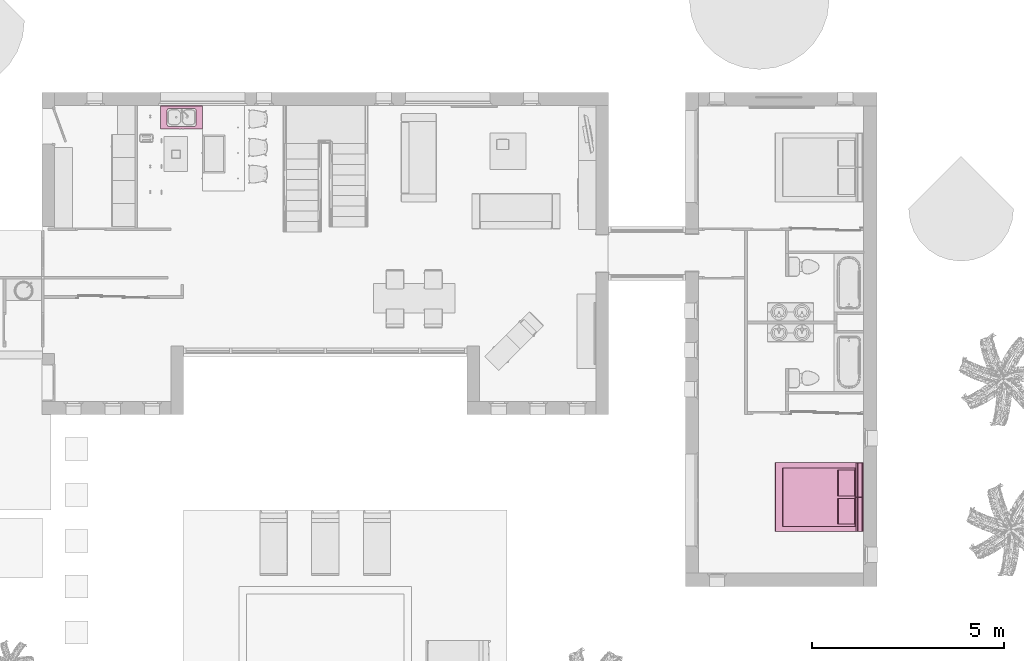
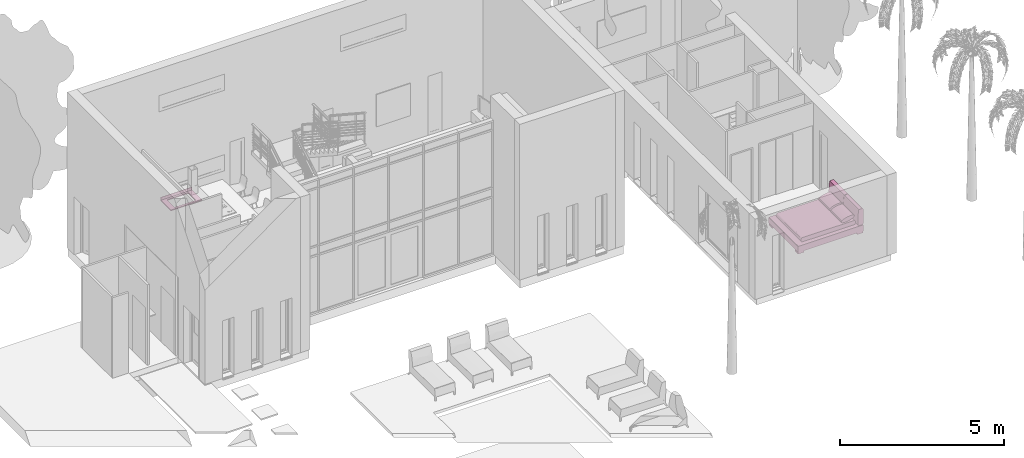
# One storey, part 26 of 40: 2 furnishings, 1 opening.
"""IFC2X3 building model written with IfcOpenShell, lengths in metres."""

from ifc_helpers import new_model, entity, si_unit, converted_unit, derived_unit, direction, frame, frame_2d, origin, place, context, subcontext, project, spatial, polyline, circle_curve, parameter, trimmed, segment, composite_curve, outline, extrude, source, transform, mapped, material, material_list, type_object, type_shapes, element, save


model = new_model("IFC2X3")

# Units and contexts
model_context = context("Model", 3, precision=1e-05, world=origin(), true_north=direction((6.12303176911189e-17, 1.0)))
body_context = subcontext(model_context, "Body", "Model", "MODEL_VIEW")
ifc_project = project(units=[si_unit("LENGTHUNIT", "METRE"), si_unit("AREAUNIT", "SQUARE_METRE"), si_unit("VOLUMEUNIT", "CUBIC_METRE"), converted_unit("PLANEANGLEUNIT", "DEGREE", entity("IfcRatioMeasure", 0.0174532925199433), si_unit("PLANEANGLEUNIT", "RADIAN"), dimensions=[0, 0, 0, 0, 0, 0, 0]), si_unit("MASSUNIT", "GRAM", prefix="KILO"), derived_unit("MASSDENSITYUNIT", [(si_unit("MASSUNIT", "GRAM", prefix="KILO"), 1), (si_unit("LENGTHUNIT", "METRE"), -3)]), si_unit("TIMEUNIT", "SECOND"), si_unit("FREQUENCYUNIT", "HERTZ"), si_unit("THERMODYNAMICTEMPERATUREUNIT", "DEGREE_CELSIUS"), derived_unit("THERMALTRANSMITTANCEUNIT", [(si_unit("MASSUNIT", "GRAM", prefix="KILO"), 1), (si_unit("THERMODYNAMICTEMPERATUREUNIT", "KELVIN"), -1), (si_unit("TIMEUNIT", "SECOND"), -3)]), derived_unit("VOLUMETRICFLOWRATEUNIT", [(si_unit("LENGTHUNIT", "METRE"), 3), (si_unit("TIMEUNIT", "SECOND"), -1)]), si_unit("ELECTRICCURRENTUNIT", "AMPERE"), si_unit("ELECTRICVOLTAGEUNIT", "VOLT"), si_unit("POWERUNIT", "WATT"), si_unit("FORCEUNIT", "NEWTON", prefix="KILO"), si_unit("ILLUMINANCEUNIT", "LUX"), si_unit("LUMINOUSFLUXUNIT", "LUMEN"), si_unit("LUMINOUSINTENSITYUNIT", "CANDELA"), derived_unit("USERDEFINED", [(si_unit("MASSUNIT", "GRAM", prefix="KILO"), -1), (si_unit("LENGTHUNIT", "METRE"), -2), (si_unit("TIMEUNIT", "SECOND"), 3), (si_unit("LUMINOUSFLUXUNIT", "LUMEN"), 1)]), derived_unit("LINEARVELOCITYUNIT", [(si_unit("LENGTHUNIT", "METRE"), 1), (si_unit("TIMEUNIT", "SECOND"), -1)]), si_unit("PRESSUREUNIT", "PASCAL"), derived_unit("USERDEFINED", [(si_unit("LENGTHUNIT", "METRE"), -2), (si_unit("MASSUNIT", "GRAM", prefix="KILO"), 1), (si_unit("TIMEUNIT", "SECOND"), -2)])], contexts=[model_context])

# Site, building, storey, space
site_placement = place(None, origin())
site = spatial("IfcSite", under=ifc_project, at=site_placement, Name="Surface", CompositionType="ELEMENT")
building_placement = place(site_placement, origin())
building = spatial("IfcBuilding", under=site, at=building_placement, CompositionType="ELEMENT")
storey_placement = place(building_placement, origin())
storey = spatial("IfcBuildingStorey", under=building, at=storey_placement, Name="RDC", CompositionType="ELEMENT", Elevation=-1.0941605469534e-13)
space_1_placement = place(storey_placement, origin())
space_1 = spatial("IfcSpace", under=storey, at=space_1_placement, Name="4", CompositionType="ELEMENT", InteriorOrExteriorSpace="INTERNAL")

# Furnishing
ifc_material_1 = material(Name="Textile - Pêche")
ifc_material_2 = material(Name="Textile - Bleu pâle")
ifc_material_3 = material(Name="Plastique - Noir")
ifc_material_list_1 = material_list([ifc_material_1, ifc_material_2, ifc_material_3])
ifc_material_list_2 = material_list([ifc_material_1, ifc_material_2, ifc_material_3])
furniture_type_1 = type_object("IfcFurnitureType", Name="1800mm x 2200mm", material=ifc_material_list_2)
shared_shape_1 = source(origin(), body_context, "Body", "SweptSolid", [
    extrude(outline(composite_curve([segment(trimmed(circle_curve(frame_2d((0.384437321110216, 4.72763725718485), x_axis=(1.0, 0.0)), 5.04670221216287), [parameter(265.287727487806)], [parameter(266.304182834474)], True, "PARAMETER"), True, "CONTINUOUS"), segment(trimmed(circle_curve(frame_2d((0.0616575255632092, -0.269434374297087), x_axis=(1.0, 0.0)), 0.0392166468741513), [parameter(266.304182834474)], [parameter(2.74799924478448e-12)], True, "PARAMETER"), True, "CONTINUOUS"), segment(polyline([(0.100874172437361, -0.269434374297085), (0.10087417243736, -0.259434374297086)]), True, "CONTINUOUS"), segment(polyline([(0.10087417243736, -0.259434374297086), (0.100874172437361, 0.273410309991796)]), True, "CONTINUOUS"), segment(trimmed(circle_curve(frame_2d((0.065060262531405, 0.270439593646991), x_axis=(1.0, 0.0)), 0.0359369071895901), [parameter(4.74175364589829)], [parameter(110.003231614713)], True, "PARAMETER"), True, "CONTINUOUS"), segment(trimmed(circle_curve(frame_2d((-0.00187936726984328, 0.454322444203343), x_axis=(1.0, 0.0)), 0.159751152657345), [parameter(254.921907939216)], [parameter(290.003231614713)], True, "PARAMETER"), False, "CONTINUOUS"), segment(trimmed(circle_curve(frame_2d((-0.0499478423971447, 0.275901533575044), x_axis=(1.0, 0.0)), 0.0250314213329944), [parameter(74.921907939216)], [parameter(98.4993313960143)], True, "PARAMETER"), True, "CONTINUOUS"), segment(trimmed(circle_curve(frame_2d((-0.0489335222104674, 0.269114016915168), x_axis=(1.0, 0.0)), 0.0318943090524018), [parameter(98.4993313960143)], [parameter(155.198538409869)], True, "PARAMETER"), True, "CONTINUOUS"), segment(trimmed(circle_curve(frame_2d((0.041964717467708, 0.227110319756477), x_axis=(1.0, 0.0)), 0.132028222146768), [parameter(155.198538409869)], [parameter(178.300939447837)], True, "PARAMETER"), True, "CONTINUOUS"), segment(trimmed(circle_curve(frame_2d((3.04960407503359, 0.137895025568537), x_axis=(1.0, 0.0)), 3.14099048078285), [parameter(178.300939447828)], [parameter(187.322955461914)], True, "PARAMETER"), True, "CONTINUOUS"), segment(trimmed(circle_curve(frame_2d((-0.0133165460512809, -0.255721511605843), x_axis=(1.0, 0.0)), 0.0528815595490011), [parameter(187.322955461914)], [parameter(220.34956436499)], True, "PARAMETER"), True, "CONTINUOUS"), segment(trimmed(circle_curve(frame_2d((-0.0273249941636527, -0.267622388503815), x_axis=(1.0, 0.0)), 0.0345003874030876), [parameter(220.34956436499)], [parameter(265.287727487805)], True, "PARAMETER"), True, "CONTINUOUS")], self_intersect=False)), frame((-0.889301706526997, 0.100874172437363, 0.606438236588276), z_axis=(1.0, 0.0, 0.0), x_axis=(0.0, -1.0, 0.0)), (0.0, 0.0, 1.0), 0.883952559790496),
    extrude(outline(composite_curve([segment(trimmed(circle_curve(frame_2d((0.384437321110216, 4.72763725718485), x_axis=(1.0, 0.0)), 5.04670221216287), [parameter(265.287727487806)], [parameter(266.304182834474)], True, "PARAMETER"), True, "CONTINUOUS"), segment(trimmed(circle_curve(frame_2d((0.0616575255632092, -0.269434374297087), x_axis=(1.0, 0.0)), 0.0392166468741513), [parameter(266.304182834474)], [parameter(2.74799924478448e-12)], True, "PARAMETER"), True, "CONTINUOUS"), segment(polyline([(0.100874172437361, -0.269434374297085), (0.10087417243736, -0.259434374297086)]), True, "CONTINUOUS"), segment(polyline([(0.10087417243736, -0.259434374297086), (0.100874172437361, 0.273410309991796)]), True, "CONTINUOUS"), segment(trimmed(circle_curve(frame_2d((0.065060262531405, 0.270439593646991), x_axis=(1.0, 0.0)), 0.0359369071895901), [parameter(4.74175364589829)], [parameter(110.003231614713)], True, "PARAMETER"), True, "CONTINUOUS"), segment(trimmed(circle_curve(frame_2d((-0.00187936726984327, 0.454322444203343), x_axis=(1.0, 0.0)), 0.159751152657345), [parameter(254.921907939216)], [parameter(290.003231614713)], True, "PARAMETER"), False, "CONTINUOUS"), segment(trimmed(circle_curve(frame_2d((-0.0499478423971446, 0.275901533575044), x_axis=(1.0, 0.0)), 0.0250314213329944), [parameter(74.921907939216)], [parameter(98.4993313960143)], True, "PARAMETER"), True, "CONTINUOUS"), segment(trimmed(circle_curve(frame_2d((-0.0489335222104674, 0.269114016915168), x_axis=(1.0, 0.0)), 0.0318943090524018), [parameter(98.4993313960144)], [parameter(155.198538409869)], True, "PARAMETER"), True, "CONTINUOUS"), segment(trimmed(circle_curve(frame_2d((0.041964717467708, 0.227110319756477), x_axis=(1.0, 0.0)), 0.132028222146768), [parameter(155.198538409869)], [parameter(178.300939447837)], True, "PARAMETER"), True, "CONTINUOUS"), segment(trimmed(circle_curve(frame_2d((3.04960407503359, 0.137895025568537), x_axis=(1.0, 0.0)), 3.14099048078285), [parameter(178.300939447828)], [parameter(187.322955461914)], True, "PARAMETER"), True, "CONTINUOUS"), segment(trimmed(circle_curve(frame_2d((-0.0133165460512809, -0.255721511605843), x_axis=(1.0, 0.0)), 0.0528815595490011), [parameter(187.322955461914)], [parameter(220.34956436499)], True, "PARAMETER"), True, "CONTINUOUS"), segment(trimmed(circle_curve(frame_2d((-0.0273249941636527, -0.267622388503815), x_axis=(1.0, 0.0)), 0.0345003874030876), [parameter(220.34956436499)], [parameter(265.287727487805)], True, "PARAMETER"), True, "CONTINUOUS")], self_intersect=False)), frame((0.00891524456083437, 0.10087417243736, 0.606438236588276), z_axis=(1.0, 0.0, 0.0), x_axis=(0.0, -1.0, 0.0)), (0.0, 0.0, 1.0), 0.88038646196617),
    extrude(outline(composite_curve([segment(polyline([(-0.905913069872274, -0.0787156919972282), (0.905913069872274, -0.0787156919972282)]), True, "CONTINUOUS"), segment(trimmed(circle_curve(frame_2d((0.905913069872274, -0.0287156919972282), x_axis=(-1.0, 0.0)), 0.05), [parameter(89.9999999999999)], [parameter(180.0)], True, "PARAMETER"), True, "CONTINUOUS"), segment(polyline([(0.955913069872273, -0.0287156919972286), (0.955913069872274, 0.0287156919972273)]), True, "CONTINUOUS"), segment(trimmed(circle_curve(frame_2d((0.905913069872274, 0.0287156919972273), x_axis=(-1.0, 0.0)), 0.05), [parameter(180.0)], [parameter(270.0)], True, "PARAMETER"), True, "CONTINUOUS"), segment(polyline([(0.905913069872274, 0.0787156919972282), (-0.905913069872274, 0.0787156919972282)]), True, "CONTINUOUS"), segment(trimmed(circle_curve(frame_2d((-0.905913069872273, 0.0287156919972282), x_axis=(-1.0, 0.0)), 0.05), [parameter(270.0)], [parameter(360.0)], True, "PARAMETER"), True, "CONTINUOUS"), segment(polyline([(-0.955913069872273, 0.0287156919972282), (-0.955913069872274, -0.0287156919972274)]), True, "CONTINUOUS"), segment(trimmed(circle_curve(frame_2d((-0.905913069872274, -0.0287156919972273), x_axis=(-1.0, 0.0)), 0.05), [parameter(360.0)], [parameter(90.0000000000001)], True, "PARAMETER"), True, "CONTINUOUS")], self_intersect=False)), frame((-0.760000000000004, 1.15891204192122, 0.381468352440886), z_axis=(1.0, 0.0, 0.0), x_axis=(0.0, -1.0, 0.0)), (0.0, 0.0, 1.0), 1.52),
    extrude(outline(composite_curve([segment(polyline([(-1.13133745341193, -0.115046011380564), (1.13133745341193, -0.115046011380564)]), True, "CONTINUOUS"), segment(trimmed(circle_curve(frame_2d((1.13133745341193, -0.0950460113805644), x_axis=(-1.0, 0.0)), 0.0199999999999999), [parameter(89.9999999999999)], [parameter(180.0)], True, "PARAMETER"), True, "CONTINUOUS"), segment(polyline([(1.15133745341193, -0.0950460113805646), (1.15133745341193, 0.0950460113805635)]), True, "CONTINUOUS"), segment(trimmed(circle_curve(frame_2d((1.13133745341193, 0.0950460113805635), x_axis=(-1.0, 0.0)), 0.02), [parameter(180.0)], [parameter(270.0)], True, "PARAMETER"), True, "CONTINUOUS"), segment(polyline([(1.13133745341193, 0.115046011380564), (-1.13133745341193, 0.115046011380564)]), True, "CONTINUOUS"), segment(trimmed(circle_curve(frame_2d((-1.13133745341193, 0.0950460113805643), x_axis=(-1.0, 0.0)), 0.0200000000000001), [parameter(269.999999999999)], [parameter(360.0)], True, "PARAMETER"), True, "CONTINUOUS"), segment(polyline([(-1.15133745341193, 0.0950460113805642), (-1.15133745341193, -0.0950460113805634)]), True, "CONTINUOUS"), segment(trimmed(circle_curve(frame_2d((-1.13133745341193, -0.0950460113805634), x_axis=(-1.0, 0.0)), 0.02), [parameter(360.0)], [parameter(90.0000000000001)], True, "PARAMETER"), True, "CONTINUOUS")], self_intersect=False)), frame((-0.9, 1.15133745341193, 0.181651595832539), z_axis=(1.0, 0.0, 0.0), x_axis=(0.0, -1.0, 0.0)), (0.0, 0.0, 1.0), 1.8),
    extrude(outline(composite_curve([segment(trimmed(circle_curve(frame_2d((-0.0980144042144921, -0.0252752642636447), x_axis=(1.0, 0.0)), 0.00499999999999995), [parameter(180.0)], [parameter(270.0)], True, "PARAMETER"), True, "CONTINUOUS"), segment(polyline([(-0.0980144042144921, -0.0302752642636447), (0.0980144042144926, -0.0302752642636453)]), True, "CONTINUOUS"), segment(trimmed(circle_curve(frame_2d((0.0980144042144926, -0.025275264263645), x_axis=(1.0, 0.0)), 0.005), [parameter(270.0)], [parameter(1.01777749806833e-13)], True, "PARAMETER"), True, "CONTINUOUS"), segment(polyline([(0.103014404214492, -0.025275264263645), (0.103014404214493, 0.0252752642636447)]), True, "CONTINUOUS"), segment(trimmed(circle_curve(frame_2d((0.0980144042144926, 0.0252752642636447), x_axis=(1.0, 0.0)), 0.00499999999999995), [parameter(2.54444374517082e-13)], [parameter(90.0000000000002)], True, "PARAMETER"), True, "CONTINUOUS"), segment(polyline([(0.0980144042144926, 0.0302752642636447), (-0.0980144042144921, 0.0302752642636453)]), True, "CONTINUOUS"), segment(trimmed(circle_curve(frame_2d((-0.0980144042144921, 0.025275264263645), x_axis=(1.0, 0.0)), 0.005), [parameter(90.0000000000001)], [parameter(180.0)], True, "PARAMETER"), True, "CONTINUOUS"), segment(polyline([(-0.103014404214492, 0.025275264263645), (-0.103014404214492, -0.0252752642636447)]), True, "CONTINUOUS")], self_intersect=False)), frame((-0.889301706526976, 2.19360083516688, 0.0302752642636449), z_axis=(1.0, 0.0, 0.0), x_axis=(0.0, -1.0, 0.0)), (0.0, 0.0, 1.0), 0.196068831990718),
    extrude(outline(composite_curve([segment(trimmed(circle_curve(frame_2d((-0.0980144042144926, -0.0252752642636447), x_axis=(1.0, 0.0)), 0.00499999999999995), [parameter(180.0)], [parameter(270.0)], True, "PARAMETER"), True, "CONTINUOUS"), segment(polyline([(-0.0980144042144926, -0.0302752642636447), (0.0980144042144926, -0.0302752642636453)]), True, "CONTINUOUS"), segment(trimmed(circle_curve(frame_2d((0.0980144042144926, -0.025275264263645), x_axis=(1.0, 0.0)), 0.005), [parameter(270.0)], [parameter(360.0)], True, "PARAMETER"), True, "CONTINUOUS"), segment(polyline([(0.103014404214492, -0.025275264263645), (0.103014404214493, 0.0252752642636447)]), True, "CONTINUOUS"), segment(trimmed(circle_curve(frame_2d((0.0980144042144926, 0.0252752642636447), x_axis=(1.0, 0.0)), 0.00499999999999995), [parameter(360.0)], [parameter(90.0000000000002)], True, "PARAMETER"), True, "CONTINUOUS"), segment(polyline([(0.0980144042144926, 0.0302752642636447), (-0.0980144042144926, 0.0302752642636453)]), True, "CONTINUOUS"), segment(trimmed(circle_curve(frame_2d((-0.0980144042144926, 0.025275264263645), x_axis=(1.0, 0.0)), 0.005), [parameter(90.0000000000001)], [parameter(180.0)], True, "PARAMETER"), True, "CONTINUOUS"), segment(polyline([(-0.103014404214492, 0.025275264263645), (-0.103014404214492, -0.0252752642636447)]), True, "CONTINUOUS")], self_intersect=False)), frame((0.693232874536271, 2.19360083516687, 0.030275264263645), z_axis=(1.0, 0.0, 0.0), x_axis=(0.0, -1.0, 0.0)), (0.0, 0.0, 1.0), 0.196068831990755),
    extrude(outline(composite_curve([segment(polyline([(-0.025275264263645, -0.103014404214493), (0.0252752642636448, -0.103014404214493)]), True, "CONTINUOUS"), segment(trimmed(circle_curve(frame_2d((0.0252752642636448, -0.0980144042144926), x_axis=(0.0, 1.0)), 0.005), [parameter(180.0)], [parameter(270.0)], True, "PARAMETER"), True, "CONTINUOUS"), segment(polyline([(0.0302752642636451, -0.0980144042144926), (0.0302752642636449, 0.0980144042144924)]), True, "CONTINUOUS"), segment(trimmed(circle_curve(frame_2d((0.0252752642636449, 0.0980144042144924), x_axis=(0.0, 1.0)), 0.00499999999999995), [parameter(270.0)], [parameter(0.0)], True, "PARAMETER"), True, "CONTINUOUS"), segment(polyline([(0.0252752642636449, 0.103014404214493), (-0.0252752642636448, 0.103014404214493)]), True, "CONTINUOUS"), segment(trimmed(circle_curve(frame_2d((-0.0252752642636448, 0.0980144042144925), x_axis=(0.0, 1.0)), 0.005), [parameter(2.03555499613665e-13)], [parameter(90.0000000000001)], True, "PARAMETER"), True, "CONTINUOUS"), segment(polyline([(-0.0302752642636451, 0.0980144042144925), (-0.0302752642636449, -0.0980144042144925)]), True, "CONTINUOUS"), segment(trimmed(circle_curve(frame_2d((-0.0252752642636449, -0.0980144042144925), x_axis=(0.0, 1.0)), 0.00499999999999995), [parameter(90.0000000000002)], [parameter(180.0)], True, "PARAMETER"), True, "CONTINUOUS")], self_intersect=False)), frame((-0.889301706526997, 0.109074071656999, 0.030275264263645), z_axis=(1.0, 0.0, 0.0), x_axis=(0.0, 0.0, -1.0)), (0.0, 0.0, 1.0), 0.196068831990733),
    extrude(outline(composite_curve([segment(polyline([(-0.025275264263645, -0.103014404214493), (0.0252752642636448, -0.103014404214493)]), True, "CONTINUOUS"), segment(trimmed(circle_curve(frame_2d((0.0252752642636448, -0.0980144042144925), x_axis=(0.0, 1.0)), 0.005), [parameter(180.0)], [parameter(270.0)], True, "PARAMETER"), True, "CONTINUOUS"), segment(polyline([(0.0302752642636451, -0.0980144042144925), (0.0302752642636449, 0.0980144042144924)]), True, "CONTINUOUS"), segment(trimmed(circle_curve(frame_2d((0.0252752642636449, 0.0980144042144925), x_axis=(0.0, 1.0)), 0.00499999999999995), [parameter(269.999999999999)], [parameter(360.0)], True, "PARAMETER"), True, "CONTINUOUS"), segment(polyline([(0.0252752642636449, 0.103014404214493), (-0.0252752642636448, 0.103014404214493)]), True, "CONTINUOUS"), segment(trimmed(circle_curve(frame_2d((-0.0252752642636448, 0.0980144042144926), x_axis=(0.0, 1.0)), 0.005), [parameter(360.0)], [parameter(89.9999999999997)], True, "PARAMETER"), True, "CONTINUOUS"), segment(polyline([(-0.0302752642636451, 0.0980144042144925), (-0.0302752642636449, -0.0980144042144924)]), True, "CONTINUOUS"), segment(trimmed(circle_curve(frame_2d((-0.0252752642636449, -0.0980144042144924), x_axis=(0.0, 1.0)), 0.00499999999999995), [parameter(89.9999999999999)], [parameter(180.0)], True, "PARAMETER"), True, "CONTINUOUS")], self_intersect=False)), frame((0.693232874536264, 0.109074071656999, 0.030275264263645), z_axis=(1.0, 0.0, 0.0), x_axis=(0.0, 0.0, -1.0)), (0.0, 0.0, 1.0), 0.196068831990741),
    extrude(outline(polyline([(-0.055148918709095, -0.233577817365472), (-0.0422900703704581, -0.233577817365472), (-0.0137906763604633, -0.216465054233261), (0.0160586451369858, -0.178163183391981), (0.044336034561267, -0.122421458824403), (0.0682735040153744, -0.0546962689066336), (0.0855278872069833, 0.0183829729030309), (0.0944102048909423, 0.0896627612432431), (0.0940509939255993, 0.152165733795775), (0.084485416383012, 0.199773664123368), (0.0666498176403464, 0.227826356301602), (0.0551489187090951, 0.233577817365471), (0.0422900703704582, 0.233577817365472), (0.0137906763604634, 0.21646505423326), (-0.0160586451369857, 0.178163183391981), (-0.0443360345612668, 0.122421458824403), (-0.0682735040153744, 0.0546962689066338), (-0.0855278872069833, -0.0183829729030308), (-0.0944102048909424, -0.089662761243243), (-0.0940509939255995, -0.152165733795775), (-0.0844854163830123, -0.199773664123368), (-0.0666498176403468, -0.227826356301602), (-0.055148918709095, -0.233577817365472)])), frame((-0.704488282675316, 0.435483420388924, 0.553826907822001), z_axis=(1.0, 0.0, 0.0), x_axis=(0.0, 0.0322127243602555, -0.999481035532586)), (0.0, 0.0, 1.0), 0.668869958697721),
    extrude(outline(polyline([(-0.0551489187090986, -0.233577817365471), (-0.0422900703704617, -0.233577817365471), (-0.0137906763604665, -0.21646505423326), (0.0160586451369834, -0.17816318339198), (0.0443360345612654, -0.122421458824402), (0.0682735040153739, -0.0546962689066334), (0.085527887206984, 0.0183829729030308), (0.0944102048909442, 0.0896627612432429), (0.0940509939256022, 0.152165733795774), (0.0844854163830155, 0.199773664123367), (0.0666498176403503, 0.227826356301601), (0.0551489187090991, 0.233577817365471), (0.0422900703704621, 0.233577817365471), (0.013790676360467, 0.216465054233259), (-0.0160586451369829, 0.17816318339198), (-0.044336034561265, 0.122421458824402), (-0.0682735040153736, 0.0546962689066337), (-0.0855278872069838, -0.0183829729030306), (-0.094410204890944, -0.0896627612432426), (-0.0940509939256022, -0.152165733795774), (-0.0844854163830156, -0.199773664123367), (-0.0666498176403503, -0.227826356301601), (-0.0551489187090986, -0.233577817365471)])), frame((0.0356183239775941, 0.435483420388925, 0.553826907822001), z_axis=(1.0, 0.0, 0.0), x_axis=(0.0, 0.032212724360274, -0.999481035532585)), (0.0, 0.0, 1.0), 0.668869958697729),
])
type_shapes(furniture_type_1, [shared_shape_1])
furnishing_1_placement = place(space_1_placement, frame((16.4475111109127, -2.68510512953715, 0.0), z_axis=(0.0, 0.0, 1.0), x_axis=(0.0, 1.0, 0.0)))
element("IfcFurnishingElement", 1, at=furnishing_1_placement, inside=space_1, type_object=furniture_type_1, material=ifc_material_list_1, Name="Lit - Divan:1800mm x 2200mm", ObjectType="1800mm x 2200mm", context=body_context, shape_type="MappedRepresentation", body=[
    mapped(shared_shape_1, transform((0.0, 0.0, 0.0), scale=1.0)),
])

# Space
space_2_placement = place(storey_placement, origin())
space_2 = spatial("IfcSpace", under=storey, at=space_2_placement, Name="21", CompositionType="ELEMENT", InteriorOrExteriorSpace="INTERNAL")

# Furnishing, opening
ifc_material_4 = material(Name="Bois - Mélaminé blanc")
furniture_type_2 = type_object("IfcFurnitureType", Name="Profondeur 600 mm", material=ifc_material_4)
shared_shape_2 = source(origin(), body_context, "Body", "SweptSolid", [
    extrude(outline(polyline([(-0.0605333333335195, -0.214683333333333), (0.0810666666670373, -0.214683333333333), (0.0810666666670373, -0.195633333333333), (-0.0205333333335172, -0.195633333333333), (-0.0205333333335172, 0.410316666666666), (-0.0605333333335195, 0.410316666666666), (-0.0605333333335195, -0.214683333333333)])), frame((-1.20046229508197, -0.214683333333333, 0.920533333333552), z_axis=(1.0, 0.0, 0.0), x_axis=(0.0, 0.0, 1.0)), (0.0, 0.0, 1.0), 1.1),
])
type_shapes(furniture_type_2, [shared_shape_2])
furnishing_2_placement = place(space_2_placement, frame((-0.702026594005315, 7.54701067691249, 0.0)))
furnishing_2 = element("IfcFurnishingElement", 2, at=furnishing_2_placement, inside=space_2, type_object=furniture_type_2, material=ifc_material_4, Name="Plan de travail - Emplacement de l'évier:Profondeur 600 mm", ObjectType="Profondeur 600 mm", context=body_context, shape_type="MappedRepresentation", body=[
    mapped(shared_shape_2, transform((0.0, 0.0, 0.0), scale=1.0)),
])
opening_placement = place(storey_placement, frame((-0.702026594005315, 7.54701067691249, 0.0)))
element("IfcOpeningElement", 3, at=opening_placement, cuts=furnishing_2, Name="Plan de travail - Emplacement de l'évier:Profondeur 600 mm:1", ObjectType="Opening", context=body_context, shape_type="SweptSolid", body=[
    extrude(outline(composite_curve([segment(polyline([(-0.326899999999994, -0.232700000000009), (0.326900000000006, -0.232700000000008)]), True, "CONTINUOUS"), segment(trimmed(circle_curve(frame_2d((0.326900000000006, -0.181900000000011), x_axis=(-1.0, 0.0)), 0.050799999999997), [parameter(89.9999999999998)], [parameter(180.0)], True, "PARAMETER"), True, "CONTINUOUS"), segment(polyline([(0.377700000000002, -0.181900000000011), (0.377700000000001, 0.181900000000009)]), True, "CONTINUOUS"), segment(trimmed(circle_curve(frame_2d((0.326900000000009, 0.181900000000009), x_axis=(-1.0, 0.0)), 0.0507999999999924), [parameter(180.0)], [parameter(270.0)], True, "PARAMETER"), True, "CONTINUOUS"), segment(polyline([(0.326900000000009, 0.232700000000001), (-0.32690000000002, 0.2327)]), True, "CONTINUOUS"), segment(trimmed(circle_curve(frame_2d((-0.326900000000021, 0.181900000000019), x_axis=(-1.0, 0.0)), 0.0507999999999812), [parameter(269.999999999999)], [parameter(360.0)], True, "PARAMETER"), True, "CONTINUOUS"), segment(polyline([(-0.377700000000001, 0.181900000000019), (-0.377700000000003, -0.181900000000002)]), True, "CONTINUOUS"), segment(trimmed(circle_curve(frame_2d((-0.326899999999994, -0.181900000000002), x_axis=(-1.0, 0.0)), 0.0508000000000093), [parameter(360.0)], [parameter(89.9999999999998)], True, "PARAMETER"), True, "CONTINUOUS")], self_intersect=False)), frame((-0.650462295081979, -0.320000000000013, 0.860000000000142), z_axis=(0.0, 0.0, 1.0), x_axis=(-1.0, 0.0, 0.0)), (0.0, 0.0, 1.0), 0.0400000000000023),
])

save(model, "model.ifc")
